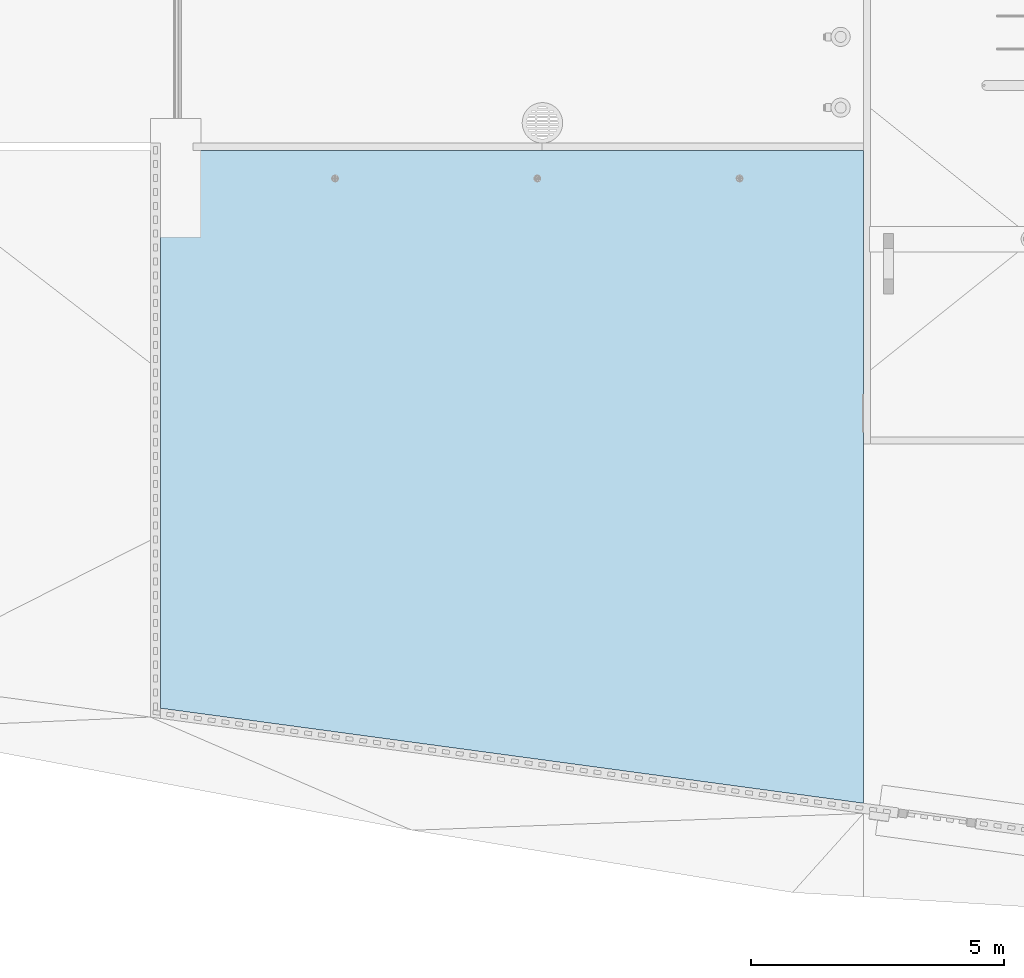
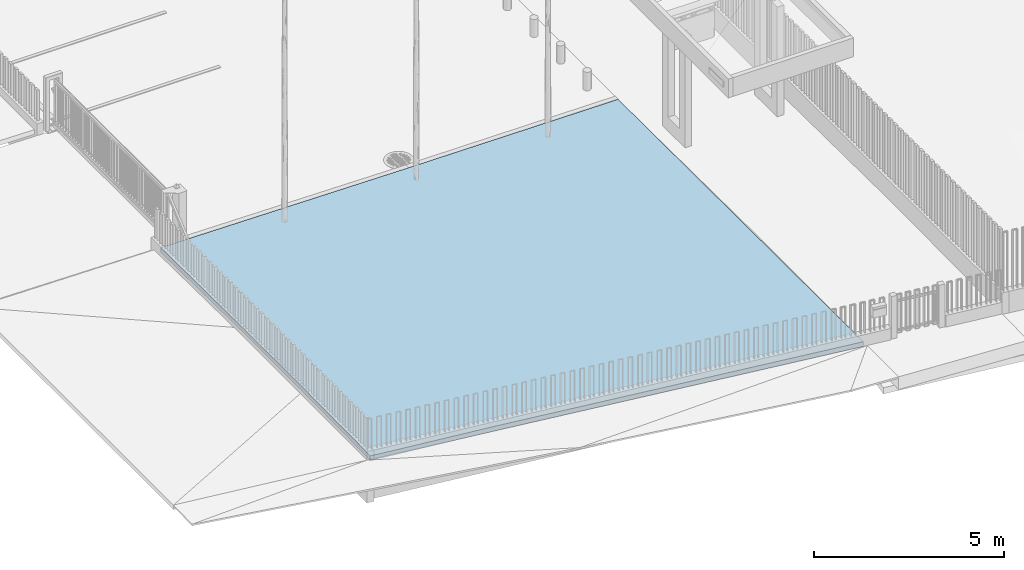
# One storey, part 55 of 77: 1 slab.
"""IFC2X3 building model written with IfcOpenShell, lengths in millimetres."""

import ifcopenshell
import ifcopenshell.guid

model = None  # the IFC model being written
_history = None  # IfcOwnerHistory: only IFC2X3 demands one
_inside = {}  # id of a spatial element -> (the spatial element, [elements in it])
_under = {}  # id of a project, library or spatial element -> (it, [spatial elements below it])
_declared = {}  # id of a project -> (the project, [libraries it declares])
_typed = {}  # id of a type object -> (the type object, [elements of that type])
_made_of = {}  # id of a material, layer set ... -> (it, [elements and type objects made of it])


def new_model(schema):
    """Start an empty IFC model of exactly this schema.

    Asked for "IFC4X3", IfcOpenShell would pick the latest addendum, in which some entities
    have other attributes; the version numbers below select the first issue.
    IFC2X3 requires an IfcOwnerHistory on every rooted entity: one is made here for all.
    """
    global model, _history
    if schema == "IFC4X3":
        model = ifcopenshell.file(schema_version=(4, 3, 0, 0))
    else:
        model = ifcopenshell.file(schema=schema)
    _inside.clear()
    _under.clear()
    _declared.clear()
    _typed.clear()
    _made_of.clear()
    _history = None
    if model.schema == "IFC2X3":
        org = make("IfcOrganization", Name="unknown")
        user = make(
            "IfcPersonAndOrganization",
            ThePerson=make("IfcPerson", FamilyName="unknown"),
            TheOrganization=org,
        )
        app = make(
            "IfcApplication",
            ApplicationDeveloper=org,
            Version="unknown",
            ApplicationFullName="unknown",
            ApplicationIdentifier="unknown",
        )
        _history = make(
            "IfcOwnerHistory",
            OwningUser=user,
            OwningApplication=app,
            ChangeAction="ADDED",
            CreationDate=0,
        )
    return model


def make(cls, **values):
    """One entity of the class cls with the attributes given. An attribute that is None is left unset."""
    return model.create_entity(
        cls, **{name: value for name, value in values.items() if value is not None}
    )


def entity(cls, *values):
    """Any entity or typed value of the class cls, its attributes in the order of the schema. None: left unset."""
    e = model.create_entity(cls)
    for i, value in enumerate(values):
        if value is not None:
            e[i] = value
    return e


def rooted(cls, **values):
    """An entity with a GlobalId (a new one), such as an element, a storey or a relation."""
    return make(cls, GlobalId=ifcopenshell.guid.new(), OwnerHistory=_history, **values)


def si_unit(unit_type, name, prefix=None):
    """IfcSIUnit, for example si_unit("LENGTHUNIT", "METRE", prefix="MILLI")."""
    return make("IfcSIUnit", UnitType=unit_type, Prefix=prefix, Name=name)


def converted_unit(unit_type, name, factor, base, dimensions=None, offset=None):
    """IfcConversionBasedUnit, such as the inch: factor (a typed value) times the base unit."""
    return make(
        "IfcConversionBasedUnit"
        if offset is None
        else "IfcConversionBasedUnitWithOffset",
        ConversionOffset=offset,
        Dimensions=None
        if dimensions is None
        else entity("IfcDimensionalExponents", *dimensions),
        UnitType=unit_type,
        Name=name,
        ConversionFactor=make(
            "IfcMeasureWithUnit", ValueComponent=factor, UnitComponent=base
        ),
    )


def derived_unit(unit_type, elements):
    """IfcDerivedUnit: a product of units, each with its exponent."""
    return make(
        "IfcDerivedUnit",
        Elements=[
            make("IfcDerivedUnitElement", Unit=unit, Exponent=power)
            for unit, power in elements
        ],
        UnitType=unit_type,
    )


def assignment(units):
    """IfcUnitAssignment: the units of a project."""
    return None if units is None else make("IfcUnitAssignment", Units=units)


def point(xyz):
    """IfcCartesianPoint."""
    return None if xyz is None else make("IfcCartesianPoint", Coordinates=xyz)


def direction(xyz):
    """IfcDirection."""
    return None if xyz is None else make("IfcDirection", DirectionRatios=xyz)


def frame(location, z_axis=None, x_axis=None):
    """IfcAxis2Placement3D, a coordinate frame: its origin and axes. An axis left out is left unset."""
    return make(
        "IfcAxis2Placement3D",
        Location=point(location),
        Axis=direction(z_axis),
        RefDirection=direction(x_axis),
    )


def origin():
    """The frame at (0, 0, 0) with its axes left unset."""
    return frame((0.0, 0.0, 0.0))


def place(relative_to, where):
    """IfcLocalPlacement: puts the frame where relative to a parent placement (None: the world)."""
    return make(
        "IfcLocalPlacement", PlacementRelTo=relative_to, RelativePlacement=where
    )


def context(
    kind, dimensions, precision=None, world=None, true_north=None, identifier=None
):
    """IfcGeometricRepresentationContext, for example the 3D "Model" context."""
    return make(
        "IfcGeometricRepresentationContext",
        ContextIdentifier=identifier,
        ContextType=kind,
        CoordinateSpaceDimension=dimensions,
        Precision=precision,
        WorldCoordinateSystem=world,
        TrueNorth=true_north,
    )


def subcontext(parent, identifier, kind, view, scale=None):
    """IfcGeometricRepresentationSubContext, for example "Body" below "Model"."""
    return make(
        "IfcGeometricRepresentationSubContext",
        ContextIdentifier=identifier,
        ContextType=kind,
        ParentContext=parent,
        TargetScale=scale,
        TargetView=view,
    )


def project(units=None, contexts=None):
    """IfcProject with its units and contexts."""
    return rooted(
        "IfcProject",
        Name="project",
        RepresentationContexts=contexts,
        UnitsInContext=assignment(units),
    )


def spatial(cls, under=None, at=None, **own):
    """A site, building, storey or space (cls), placed at a placement, below another one or the project."""
    s = rooted(cls, ObjectPlacement=at, **own)
    if under is not None:
        _under.setdefault(under.id(), (under, []))[1].append(s)
    return s


def faces_of(points, faces, orient=None, outer=None):
    """IfcFace entities. A face is a list of loops; a loop is a list of indices into points, from 0.

    orient and outer hold one flag for each loop. By default every Orientation is true, the
    first loop of a face is its IfcFaceOuterBound and the others are IfcFaceBound.
    """
    made = []
    for i, loops in enumerate(faces):
        bounds = []
        for j, loop in enumerate(loops):
            is_outer = j == 0 if outer is None else outer[i][j]
            bounds.append(
                make(
                    "IfcFaceOuterBound" if is_outer else "IfcFaceBound",
                    Bound=make("IfcPolyLoop", Polygon=[points[k] for k in loop]),
                    Orientation=True if orient is None else orient[i][j],
                )
            )
        made.append(make("IfcFace", Bounds=bounds))
    return made


def faceted_brep(points, faces, orient=None, outer=None, voids=None):
    """IfcFacetedBrep: a solid bounded by flat faces; with voids (closed shells), ...WithVoids."""
    shared = [point(p) for p in points]
    hull = make("IfcClosedShell", CfsFaces=faces_of(shared, faces, orient, outer))
    if voids is None:
        return make("IfcFacetedBrep", Outer=hull)
    return make(
        "IfcFacetedBrepWithVoids",
        Outer=hull,
        Voids=[
            make(cls, CfsFaces=faces_of(shared, fs, o, b)) for cls, fs, o, b in voids
        ],
    )


def shape(context_of_items, identifier, shape_type, items):
    """IfcShapeRepresentation: the items that make up one representation, for example the "Body"."""
    return make(
        "IfcShapeRepresentation",
        ContextOfItems=context_of_items,
        RepresentationIdentifier=identifier,
        RepresentationType=shape_type,
        Items=items,
    )


def made_of(thing, what):
    """Note that an element or type object is made of a material, layer set ...; save() writes the relation."""
    if what is not None:
        _made_of.setdefault(what.id(), (what, []))[1].append(thing)
    return thing


def element(
    cls,
    number,
    at=None,
    inside=None,
    cuts=None,
    type_object=None,
    material=None,
    context=None,
    identifier="Body",
    shape_type=None,
    held_by="IfcProductDefinitionShape",
    body=None,
    shapes=None,
    **own,
):
    """One element of the class cls, such as IfcWall. Its Tag is "e" and its number.

    at: its placement. inside: the storey or other place that contains it. cuts: it is an
    opening in that element (IfcRelVoidsElement). A single representation is given by context,
    identifier, shape_type and body (its items); several are given by shapes. held_by: the class
    of the entity that holds the representations. save() writes the other relations.
    """
    e = rooted(cls, Tag="e%d" % number, ObjectPlacement=at, **own)
    if body is not None:
        shapes = [shape(context, identifier, shape_type, body)]
    if shapes is not None:
        e.Representation = make(held_by, Representations=shapes)
    if inside is not None:
        _inside.setdefault(inside.id(), (inside, []))[1].append(e)
    if cuts is not None:
        rooted(
            "IfcRelVoidsElement", RelatingBuildingElement=cuts, RelatedOpeningElement=e
        )
    if type_object is not None:
        _typed.setdefault(type_object.id(), (type_object, []))[1].append(e)
    return made_of(e, material)


def aggregate(whole, parts):
    """IfcRelAggregates: a whole, such as a stair, and the parts it consists of."""
    return rooted("IfcRelAggregates", RelatingObject=whole, RelatedObjects=parts)


def save(model, path):
    """Write the relations noted so far, then the file.

    IfcRelAggregates (storeys below a building ...), IfcRelContainedInSpatialStructure (elements
    in a storey), IfcRelDefinesByType, IfcRelAssociatesMaterial and IfcRelDeclares: one each for
    every whole, place, type object, material and project.
    """
    for whole, parts in _under.values():
        aggregate(whole, parts)
    for where, things in _inside.values():
        rooted(
            "IfcRelContainedInSpatialStructure",
            RelatedElements=things,
            RelatingStructure=where,
        )
    for kind, things in _typed.values():
        rooted("IfcRelDefinesByType", RelatedObjects=things, RelatingType=kind)
    for what, things in _made_of.values():
        rooted("IfcRelAssociatesMaterial", RelatedObjects=things, RelatingMaterial=what)
    for by, libraries in _declared.values():
        rooted("IfcRelDeclares", RelatingContext=by, RelatedDefinitions=libraries)
    model.write(path)


model = new_model("IFC2X3")

# Units and contexts
model_context = context("Model", 3, precision=0.01, world=origin(), true_north=direction((6.12303176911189e-17, 1.0)))
body_context = subcontext(model_context, "Body", "Model", "MODEL_VIEW")
ifc_project = project(units=[si_unit("LENGTHUNIT", "METRE", prefix="MILLI"), si_unit("AREAUNIT", "SQUARE_METRE"), si_unit("VOLUMEUNIT", "CUBIC_METRE"), converted_unit("PLANEANGLEUNIT", "DEGREE", entity("IfcRatioMeasure", 0.0174532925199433), si_unit("PLANEANGLEUNIT", "RADIAN"), dimensions=[0, 0, 0, 0, 0, 0, 0]), si_unit("MASSUNIT", "GRAM", prefix="KILO"), derived_unit("MASSDENSITYUNIT", [(si_unit("MASSUNIT", "GRAM", prefix="KILO"), 1), (si_unit("LENGTHUNIT", "METRE"), -3)]), si_unit("TIMEUNIT", "SECOND"), si_unit("FREQUENCYUNIT", "HERTZ"), si_unit("THERMODYNAMICTEMPERATUREUNIT", "DEGREE_CELSIUS"), derived_unit("THERMALTRANSMITTANCEUNIT", [(si_unit("MASSUNIT", "GRAM", prefix="KILO"), 1), (si_unit("THERMODYNAMICTEMPERATUREUNIT", "KELVIN"), -1), (si_unit("TIMEUNIT", "SECOND"), -3)]), derived_unit("VOLUMETRICFLOWRATEUNIT", [(si_unit("LENGTHUNIT", "METRE"), 3), (si_unit("TIMEUNIT", "SECOND"), -1)]), si_unit("ELECTRICCURRENTUNIT", "AMPERE"), si_unit("ELECTRICVOLTAGEUNIT", "VOLT"), si_unit("POWERUNIT", "WATT"), si_unit("FORCEUNIT", "NEWTON", prefix="KILO"), si_unit("ILLUMINANCEUNIT", "LUX"), si_unit("LUMINOUSFLUXUNIT", "LUMEN"), si_unit("LUMINOUSINTENSITYUNIT", "CANDELA"), derived_unit("USERDEFINED", [(si_unit("MASSUNIT", "GRAM", prefix="KILO"), -1), (si_unit("LENGTHUNIT", "METRE"), -2), (si_unit("TIMEUNIT", "SECOND"), 3), (si_unit("LUMINOUSFLUXUNIT", "LUMEN"), 1)]), derived_unit("LINEARVELOCITYUNIT", [(si_unit("LENGTHUNIT", "METRE"), 1), (si_unit("TIMEUNIT", "SECOND"), -1)]), si_unit("PRESSUREUNIT", "PASCAL"), derived_unit("USERDEFINED", [(si_unit("LENGTHUNIT", "METRE"), -2), (si_unit("MASSUNIT", "GRAM", prefix="KILO"), 1), (si_unit("TIMEUNIT", "SECOND"), -2)])], contexts=[model_context])

# Site, building, storey
site_placement = place(None, origin())
site = spatial("IfcSite", under=ifc_project, at=site_placement, Name="Default", CompositionType="ELEMENT")
building_placement = place(site_placement, origin())
building = spatial("IfcBuilding", under=site, at=building_placement, CompositionType="ELEMENT")
storey_placement = place(building_placement, origin())
storey = spatial("IfcBuildingStorey", under=building, at=storey_placement, Name="1. KORRUS", CompositionType="ELEMENT", Elevation=0.0)

# Slab
slab_placement = place(storey_placement, origin())
element("IfcSlab", 1, at=slab_placement, inside=storey, Name="Floor:Muru", ObjectType="Floor:Muru", PredefinedType="FLOOR", context=body_context, shape_type="Brep", body=[
    faceted_brep([(-2500.0, -19556.0806807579, -270.0), (-2500.0, -6647.98684495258, -310.0), (-2500.0, -6647.98684495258, -160.0), (-2500.0, -19556.0806807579, -120.0), (-12815.9861322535, -18161.8775833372, -200.0), (-12815.9861322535, -18161.8775833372, -50.0), (-15700.0, -17772.1037879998, -63.0215827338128), (-16122.0306621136, -17715.06644336, -61.1998676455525), (-16400.0, -17677.4989527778, -60.0), (-16400.0, -17677.4989527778, -210.0), (-16122.0306621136, -17715.06644336, -211.199867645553), (-15700.0, -17772.1037879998, -213.021582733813), (-16400.0, -16073.96341188, -33.5267312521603), (-16400.0, -15058.5749148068, -16.7633656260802), (-16400.0, -14043.1864177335, 0.0), (-16400.0, -11129.8884853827, 0.0), (-16400.0, -9350.54702986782, -23.8203548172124), (-16400.0, -6647.98684495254, -60.0), (-16400.0, -6647.98684495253, -210.0), (-16400.0, -9350.54702986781, -173.820354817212), (-16400.0, -11129.8884853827, -150.0), (-16400.0, -14043.1864177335, -150.0), (-16400.0, -15058.5749148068, -166.76336562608), (-16400.0, -16073.96341188, -183.52673125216), (-8860.3646380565, -6647.98684495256, -130.0), (-8860.3646380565, -6647.98684495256, -280.0), (-15700.0, -6647.98684495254, -216.498988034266), (-15854.39118221, -6647.98684495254, -215.06557882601), (-16050.0, -6647.98684495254, -213.249494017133), (-16050.0, -6647.98684495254, -63.2494940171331), (-15854.39118221, -6647.98684495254, -65.0655788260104), (-15700.0, -6647.98684495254, -66.4989880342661), (-8475.50034970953, -12401.8584022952, -50.0), (-8475.50034970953, -12401.8584022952, -200.0), (-14949.9800515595, -12222.5569527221, 0.0), (-14949.9800515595, -12222.5569527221, -150.0), (-16122.0306820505, -13694.1711292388, 0.0), (-16086.133229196, -16539.3466606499, -43.5614144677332), (-16064.7048532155, -15340.6983417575, -25.7515939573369), (-15700.0, -16755.5677964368, -49.1183551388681), (-15700.0, -13164.2739400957, 0.0), (-15700.0, -15468.1888640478, -31.5107913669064), (-16122.0306820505, -13694.1711292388, -150.0), (-16064.7048532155, -15340.6983417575, -175.751593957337), (-16086.133229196, -16539.3466606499, -193.561414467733), (-15700.0, -16755.5677964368, -199.118355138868), (-15700.0, -13164.2739400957, -150.0), (-15700.0, -15468.1888640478, -181.510791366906), (-15700.0, -11657.3763506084, 0.0), (-16008.7823682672, -11424.6921330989, 0.0), (-16204.3911841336, -11277.2903092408, 0.0), (-16106.5867600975, -9098.43535111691, -30.0424133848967), (-15902.976711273, -9326.93548209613, -28.9712943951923), (-15700.0, -9668.61904705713, -26.400492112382), (-16204.3911841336, -11277.2903092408, -150.0), (-16008.7823682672, -11424.6921330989, -150.0), (-15700.0, -11657.3763506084, -150.0), (-16106.5867600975, -9098.43535111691, -180.042413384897), (-15902.976711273, -9326.93548209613, -178.971294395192), (-15700.0, -9668.61904705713, -176.400492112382)], [[[0, 1, 2, 3]], [[4, 0, 3, 5, 6, 7, 8, 9, 10, 11]], [[8, 12, 13, 14, 15, 16, 17, 18, 19, 20, 21, 22, 23, 9]], [[24, 2, 1, 25, 26, 27, 28, 18, 17, 29, 30, 31]], [[3, 2, 32]], [[33, 1, 0]], [[2, 24, 32]], [[33, 25, 1]], [[3, 32, 5]], [[32, 24, 34]], [[4, 33, 0]], [[35, 25, 33]], [[36, 14, 13]], [[12, 37, 38]], [[7, 6, 39]], [[38, 13, 12]], [[38, 40, 36]], [[41, 38, 37]], [[36, 13, 38]], [[7, 37, 8]], [[38, 41, 40]], [[12, 8, 37]], [[7, 39, 37]], [[41, 37, 39]], [[5, 40, 41, 39, 6]], [[32, 34, 5]], [[24, 31, 34]], [[5, 34, 40]], [[22, 21, 42]], [[43, 44, 23]], [[45, 11, 10]], [[23, 22, 43]], [[42, 46, 43]], [[44, 43, 47]], [[43, 22, 42]], [[9, 44, 10]], [[46, 47, 43]], [[44, 9, 23]], [[44, 45, 10]], [[45, 44, 47]], [[4, 11, 45, 47, 46]], [[4, 35, 33]], [[35, 26, 25]], [[46, 35, 4]], [[15, 14, 36, 40, 34, 48, 49, 50]], [[16, 15, 50]], [[51, 17, 16]], [[51, 49, 52]], [[49, 51, 50]], [[53, 31, 30]], [[51, 52, 29]], [[16, 50, 51]], [[53, 52, 48]], [[51, 29, 17]], [[49, 48, 52]], [[53, 30, 52]], [[29, 52, 30]], [[34, 31, 53, 48]], [[20, 54, 55, 56, 35, 46, 42, 21]], [[54, 20, 19]], [[19, 18, 57]], [[58, 55, 57]], [[54, 57, 55]], [[27, 26, 59]], [[28, 58, 57]], [[57, 54, 19]], [[56, 58, 59]], [[18, 28, 57]], [[58, 56, 55]], [[58, 27, 59]], [[27, 58, 28]], [[35, 56, 59, 26]]]),
])

save(model, "model.ifc")
